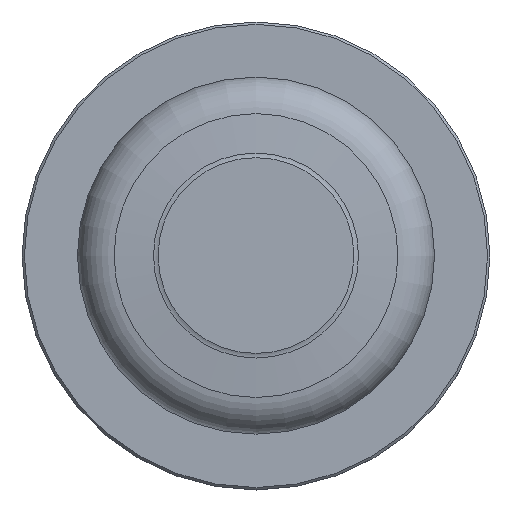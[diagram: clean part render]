
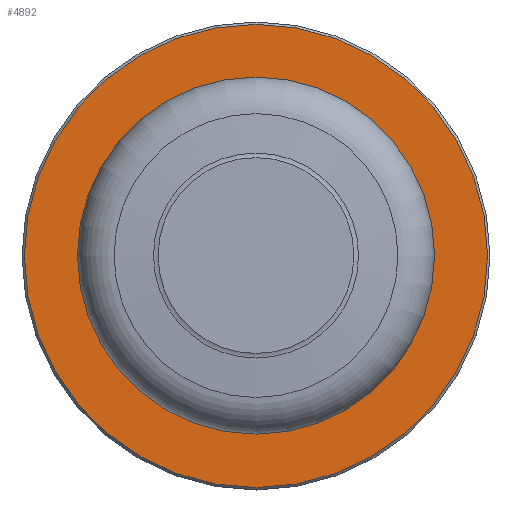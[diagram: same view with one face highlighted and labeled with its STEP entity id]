
A CAD part, top view. The second image highlights one B-rep face of the part: STEP entity #4892.
In plain terms, the highlighted planar face has unit normal (0, 0, 1) as drawn and (0, 1, 0) by its records, which use the part's own axes.
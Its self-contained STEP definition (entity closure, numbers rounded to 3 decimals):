
#4185=PLANE('',#9708);
#4431=FACE_OUTER_BOUND('',#5820,.T.);
#4892=ADVANCED_FACE('AC_MATE2',(#4431),#4185,.F.);
#5820=EDGE_LOOP('',(#7342));
#7342=ORIENTED_EDGE('',*,*,#8674,.T.);
#7913=VERTEX_POINT('',#15214);
#8674=EDGE_CURVE('',#7913,#7913,#9002,.T.);
#9002=CIRCLE('',#9707,24.25);
#9707=AXIS2_PLACEMENT_3D('',#15213,#11380,#11381);
#9708=AXIS2_PLACEMENT_3D('',#15215,#11382,#11383);
#11380=DIRECTION('',(0.,1.,0.));
#11381=DIRECTION('',(1.,0.,0.));
#11382=DIRECTION('',(0.,-1.,0.));
#11383=DIRECTION('',(1.,0.,0.));
#15213=CARTESIAN_POINT('',(0.,14.005,0.));
#15214=CARTESIAN_POINT('',(24.25,14.005,0.));
#15215=CARTESIAN_POINT('',(18.733,14.005,0.));
